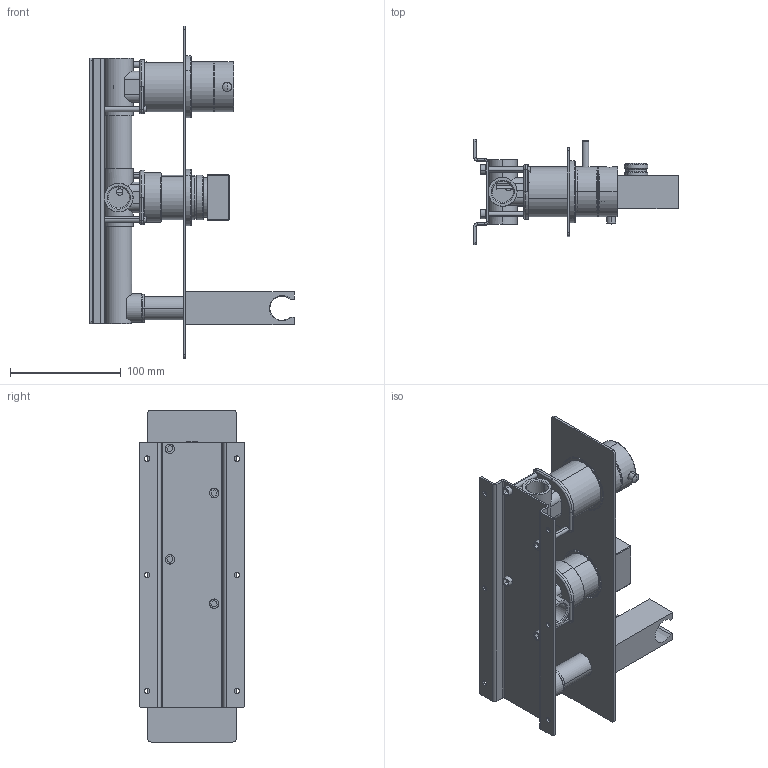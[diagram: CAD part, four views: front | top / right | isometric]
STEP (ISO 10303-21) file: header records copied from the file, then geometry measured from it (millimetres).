
FILE_DESCRIPTION (( 'STEP AP203' ), '1' );
FILE_NAME ('ET54N.STEP', '2024-02-02T08:01:25', ( '' ), ( '' ), 'SwSTEP 2.0', 'SolidWorks 2023', '' );
FILE_SCHEMA (( 'CONFIG_CONTROL_DESIGN' ));
Length unit declared in the file: millimetre
Products named in the file (44): EU1456_0; C24.1457.00.2; C11.14.0007; ET54N; C12.00.0017; C47.00.0020.01; C47.00.0015; C11.14.0009; C25.0814.00.0; C24.1455.00.0; C25.2691.00; C25.1964.00.0; C39.00.0034; AS535_00; 1174; C24.1965.00.0; C10.00.0011; TUBO DI GIUNZIONE VASCA E DOCCIA; EROGATORE VASCA E DOCCIA; C47.00.0023.01; 405-40CPA GEDA; C47.00.0076.00; 1000; EU0615_0; C24.1992.00.0; AS806_00; EU1993_0; ADATTATORE MEZZO; C10.00.0017; C12.00.0008; 1174G; VITETC5x40; EU1996_0; C24.2016.00.0; OR3934262ACS; EU1995_0; OR4569262NBR; C11.14.0013; FERMO38; EU0620_0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
Assembly tree (49 placements, depth 4):
  ET54N
    IST81
      405-40CPA GEDA
        1174G
        EROGATORE VASCA E DOCCIA
        TUBO DI GIUNZIONE VASCA E DOCCIA
        1174
        ADATTATORE MEZZO
      C24.1966.00.0
      C25.1964.00.0
      C12.00.0008
      C12.00.0017  x2
      1000
      C47.00.0015
      C24.1965.00.0
      C10.00.0011
      VITETC5x40  x4
      C10.00.0017
      C24.1455.00.0
      C47.00.0020.01
      C24.1993.00.0
    AS806_00
      C24.1992.00.0
      C24.2016.00.0
      C47.00.0023.01
      C11.14.0009
      C11.14.0007
    EU1456_0
    FERMO38
    EU0620_0
    EU0615_0
    AS535_00
      C24.1457.00.2
      C25.0814.00.0
      C11.14.0013
      C11.14.0009
      C47.00.0023.01
      C47.00.0076.00
    OR4569262NBR
    OR3934262ACS
    EU1993_0
    EU1173_0
    EU1995_0
    EU1996_0
    C25.2691.00
    C39.00.0034
Bounding box: 184.5 x 95 x 300 mm (x, y, z)
Volume: 506474.1 mm3; surface area: 301043.1 mm2
Topology: 55 solids, 55 shells, 2654 faces, 6685 edges, 4265 vertices
Faces by surface type: plane 1262, cylinder 906, cone 290, bspline 107, torus 87, sphere 2
Entity records: 88978 total; most frequent: CARTESIAN_POINT 22498, DIRECTION 13002, ORIENTED_EDGE 12848, EDGE_CURVE 6424, AXIS2_PLACEMENT_3D 4788, VERTEX_POINT 4109, LINE 3426, VECTOR 3426
